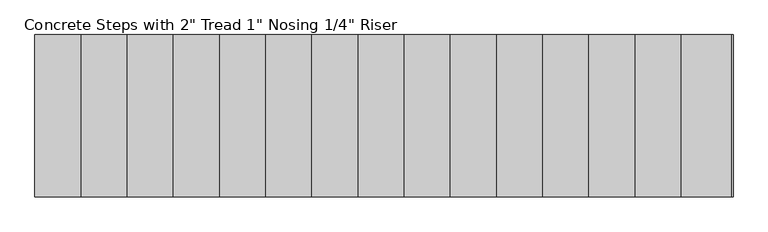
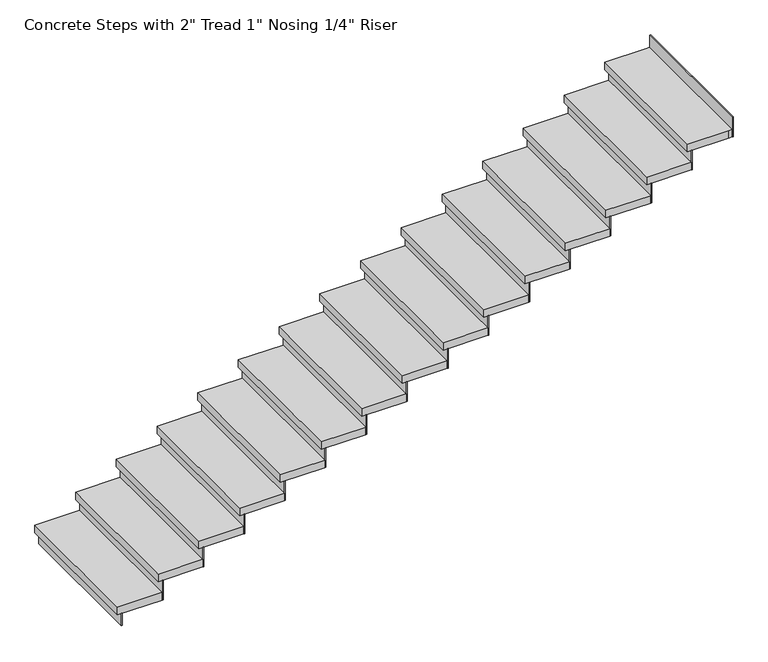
"""IFC4 building model written with IfcOpenShell, lengths in millimetres: stair flight geometry."""

from ifc_helpers import new_model, si_unit, frame, origin, origin_with_axes, place, context, project, spatial, polyline, outline, extrude, source, transform, mapped, element, save


def stair_flight_273abd03(model_context):
    return source(origin(), model_context, "Body", "SweptSolid", [
        extrude(outline(polyline([(2053.4873344, 3693.559649), (2047.1373344, 3693.559649), (2047.1373344, 4607.959649), (2053.4873344, 4607.959649), (2053.4873344, 3693.559649)])), origin_with_axes(), (0.0, 0.0, 1.0), 81.7217391),
        extrude(outline(polyline([(2307.4873344, 4607.959649), (2307.4873344, 3693.559649), (2021.7373344, 3693.559649), (2021.7373344, 4607.959649), (2307.4873344, 4607.959649)])), frame((0.0, 0.0, 81.7217391), z_axis=(0.0, 0.0, 1.0), x_axis=(1.0, 0.0, 0.0)), (0.0, 0.0, 1.0), 50.8),
        extrude(outline(polyline([(2313.8373344, 3693.559649), (2307.4873344, 3693.559649), (2307.4873344, 4607.959649), (2313.8373344, 4607.959649), (2313.8373344, 3693.559649)])), frame((0.0, 0.0, 81.7217391), z_axis=(0.0, 0.0, 1.0), x_axis=(1.0, 0.0, 0.0)), (0.0, 0.0, 1.0), 132.5217391),
        extrude(outline(polyline([(2567.8373344, 4607.959649), (2567.8373344, 3693.559649), (2282.0873344, 3693.559649), (2282.0873344, 4607.959649), (2567.8373344, 4607.959649)])), frame((0.0, 0.0, 214.2434783), z_axis=(0.0, 0.0, 1.0), x_axis=(1.0, 0.0, 0.0)), (0.0, 0.0, 1.0), 50.8),
        extrude(outline(polyline([(2574.1873344, 3693.559649), (2567.8373344, 3693.559649), (2567.8373344, 4607.959649), (2574.1873344, 4607.959649), (2574.1873344, 3693.559649)])), frame((0.0, 0.0, 214.2434783), z_axis=(0.0, 0.0, 1.0), x_axis=(1.0, 0.0, 0.0)), (0.0, 0.0, 1.0), 132.5217391),
        extrude(outline(polyline([(2828.1873344, 4607.959649), (2828.1873344, 3693.559649), (2542.4373344, 3693.559649), (2542.4373344, 4607.959649), (2828.1873344, 4607.959649)])), frame((0.0, 0.0, 346.7652174), z_axis=(0.0, 0.0, 1.0), x_axis=(1.0, 0.0, 0.0)), (0.0, 0.0, 1.0), 50.8),
        extrude(outline(polyline([(2834.5373344, 3693.559649), (2828.1873344, 3693.559649), (2828.1873344, 4607.959649), (2834.5373344, 4607.959649), (2834.5373344, 3693.559649)])), frame((0.0, 0.0, 346.7652174), z_axis=(0.0, 0.0, 1.0), x_axis=(1.0, 0.0, 0.0)), (0.0, 0.0, 1.0), 132.5217391),
        extrude(outline(polyline([(3088.5373344, 4607.959649), (3088.5373344, 3693.559649), (2802.7873344, 3693.559649), (2802.7873344, 4607.959649), (3088.5373344, 4607.959649)])), frame((0.0, 0.0, 479.2869565), z_axis=(0.0, 0.0, 1.0), x_axis=(1.0, 0.0, 0.0)), (0.0, 0.0, 1.0), 50.8),
        extrude(outline(polyline([(3094.8873344, 3693.559649), (3088.5373344, 3693.559649), (3088.5373344, 4607.959649), (3094.8873344, 4607.959649), (3094.8873344, 3693.559649)])), frame((0.0, 0.0, 479.2869565), z_axis=(0.0, 0.0, 1.0), x_axis=(1.0, 0.0, 0.0)), (0.0, 0.0, 1.0), 132.5217391),
        extrude(outline(polyline([(3348.8873344, 4607.959649), (3348.8873344, 3693.559649), (3063.1373344, 3693.559649), (3063.1373344, 4607.959649), (3348.8873344, 4607.959649)])), frame((0.0, 0.0, 611.8086957), z_axis=(0.0, 0.0, 1.0), x_axis=(1.0, 0.0, 0.0)), (0.0, 0.0, 1.0), 50.8),
        extrude(outline(polyline([(3355.2373344, 3693.559649), (3348.8873344, 3693.559649), (3348.8873344, 4607.959649), (3355.2373344, 4607.959649), (3355.2373344, 3693.559649)])), frame((0.0, 0.0, 611.8086957), z_axis=(0.0, 0.0, 1.0), x_axis=(1.0, 0.0, 0.0)), (0.0, 0.0, 1.0), 132.5217391),
        extrude(outline(polyline([(3609.2373344, 4607.959649), (3609.2373344, 3693.559649), (3323.4873344, 3693.559649), (3323.4873344, 4607.959649), (3609.2373344, 4607.959649)])), frame((0.0, 0.0, 744.3304348), z_axis=(0.0, 0.0, 1.0), x_axis=(1.0, 0.0, 0.0)), (0.0, 0.0, 1.0), 50.8),
        extrude(outline(polyline([(3615.5873344, 3693.559649), (3609.2373344, 3693.559649), (3609.2373344, 4607.959649), (3615.5873344, 4607.959649), (3615.5873344, 3693.559649)])), frame((0.0, 0.0, 744.3304348), z_axis=(0.0, 0.0, 1.0), x_axis=(1.0, 0.0, 0.0)), (0.0, 0.0, 1.0), 132.5217391),
        extrude(outline(polyline([(3869.5873344, 4607.959649), (3869.5873344, 3693.559649), (3583.8373344, 3693.559649), (3583.8373344, 4607.959649), (3869.5873344, 4607.959649)])), frame((0.0, 0.0, 876.8521739), z_axis=(0.0, 0.0, 1.0), x_axis=(1.0, 0.0, 0.0)), (0.0, 0.0, 1.0), 50.8),
        extrude(outline(polyline([(3875.9373344, 3693.559649), (3869.5873344, 3693.559649), (3869.5873344, 4607.959649), (3875.9373344, 4607.959649), (3875.9373344, 3693.559649)])), frame((0.0, 0.0, 876.8521739), z_axis=(0.0, 0.0, 1.0), x_axis=(1.0, 0.0, 0.0)), (0.0, 0.0, 1.0), 132.5217391),
        extrude(outline(polyline([(4129.9373344, 4607.959649), (4129.9373344, 3693.559649), (3844.1873344, 3693.559649), (3844.1873344, 4607.959649), (4129.9373344, 4607.959649)])), frame((0.0, 0.0, 1009.373913), z_axis=(0.0, 0.0, 1.0), x_axis=(1.0, 0.0, 0.0)), (0.0, 0.0, 1.0), 50.8),
        extrude(outline(polyline([(4136.2873344, 3693.559649), (4129.9373344, 3693.559649), (4129.9373344, 4607.959649), (4136.2873344, 4607.959649), (4136.2873344, 3693.559649)])), frame((0.0, 0.0, 1009.373913), z_axis=(0.0, 0.0, 1.0), x_axis=(1.0, 0.0, 0.0)), (0.0, 0.0, 1.0), 132.5217391),
        extrude(outline(polyline([(4390.2873344, 4607.959649), (4390.2873344, 3693.559649), (4104.5373344, 3693.559649), (4104.5373344, 4607.959649), (4390.2873344, 4607.959649)])), frame((0.0, 0.0, 1141.8956522), z_axis=(0.0, 0.0, 1.0), x_axis=(1.0, 0.0, 0.0)), (0.0, 0.0, 1.0), 50.8),
        extrude(outline(polyline([(4396.6373344, 3693.559649), (4390.2873344, 3693.559649), (4390.2873344, 4607.959649), (4396.6373344, 4607.959649), (4396.6373344, 3693.559649)])), frame((0.0, 0.0, 1141.8956522), z_axis=(0.0, 0.0, 1.0), x_axis=(1.0, 0.0, 0.0)), (0.0, 0.0, 1.0), 132.5217391),
        extrude(outline(polyline([(4650.6373344, 4607.959649), (4650.6373344, 3693.559649), (4364.8873344, 3693.559649), (4364.8873344, 4607.959649), (4650.6373344, 4607.959649)])), frame((0.0, 0.0, 1274.4173913), z_axis=(0.0, 0.0, 1.0), x_axis=(1.0, 0.0, 0.0)), (0.0, 0.0, 1.0), 50.8),
        extrude(outline(polyline([(4656.9873344, 3693.559649), (4650.6373344, 3693.559649), (4650.6373344, 4607.959649), (4656.9873344, 4607.959649), (4656.9873344, 3693.559649)])), frame((0.0, 0.0, 1274.4173913), z_axis=(0.0, 0.0, 1.0), x_axis=(1.0, 0.0, 0.0)), (0.0, 0.0, 1.0), 132.5217391),
        extrude(outline(polyline([(4910.9873344, 4607.959649), (4910.9873344, 3693.559649), (4625.2373344, 3693.559649), (4625.2373344, 4607.959649), (4910.9873344, 4607.959649)])), frame((0.0, 0.0, 1406.9391304), z_axis=(0.0, 0.0, 1.0), x_axis=(1.0, 0.0, 0.0)), (0.0, 0.0, 1.0), 50.8),
        extrude(outline(polyline([(4917.3373344, 3693.559649), (4910.9873344, 3693.559649), (4910.9873344, 4607.959649), (4917.3373344, 4607.959649), (4917.3373344, 3693.559649)])), frame((0.0, 0.0, 1406.9391304), z_axis=(0.0, 0.0, 1.0), x_axis=(1.0, 0.0, 0.0)), (0.0, 0.0, 1.0), 132.5217391),
        extrude(outline(polyline([(5171.3373344, 4607.959649), (5171.3373344, 3693.559649), (4885.5873344, 3693.559649), (4885.5873344, 4607.959649), (5171.3373344, 4607.959649)])), frame((0.0, 0.0, 1539.4608696), z_axis=(0.0, 0.0, 1.0), x_axis=(1.0, 0.0, 0.0)), (0.0, 0.0, 1.0), 50.8),
        extrude(outline(polyline([(5177.6873344, 3693.559649), (5171.3373344, 3693.559649), (5171.3373344, 4607.959649), (5177.6873344, 4607.959649), (5177.6873344, 3693.559649)])), frame((0.0, 0.0, 1539.4608696), z_axis=(0.0, 0.0, 1.0), x_axis=(1.0, 0.0, 0.0)), (0.0, 0.0, 1.0), 132.5217391),
        extrude(outline(polyline([(5431.6873344, 4607.959649), (5431.6873344, 3693.559649), (5145.9373344, 3693.559649), (5145.9373344, 4607.959649), (5431.6873344, 4607.959649)])), frame((0.0, 0.0, 1671.9826087), z_axis=(0.0, 0.0, 1.0), x_axis=(1.0, 0.0, 0.0)), (0.0, 0.0, 1.0), 50.8),
        extrude(outline(polyline([(5438.0373344, 3693.559649), (5431.6873344, 3693.559649), (5431.6873344, 4607.959649), (5438.0373344, 4607.959649), (5438.0373344, 3693.559649)])), frame((0.0, 0.0, 1671.9826087), z_axis=(0.0, 0.0, 1.0), x_axis=(1.0, 0.0, 0.0)), (0.0, 0.0, 1.0), 132.5217391),
        extrude(outline(polyline([(5692.0373344, 4607.959649), (5692.0373344, 3693.559649), (5406.2873344, 3693.559649), (5406.2873344, 4607.959649), (5692.0373344, 4607.959649)])), frame((0.0, 0.0, 1804.5043478), z_axis=(0.0, 0.0, 1.0), x_axis=(1.0, 0.0, 0.0)), (0.0, 0.0, 1.0), 50.8),
        extrude(outline(polyline([(5958.7373344, 3693.559649), (5952.3873344, 3693.559649), (5952.3873344, 4607.959649), (5958.7373344, 4607.959649), (5958.7373344, 3693.559649)])), frame((0.0, 0.0, 1937.026087), z_axis=(0.0, 0.0, 1.0), x_axis=(1.0, 0.0, 0.0)), (0.0, 0.0, 1.0), 132.5217391),
        extrude(outline(polyline([(5698.3873344, 3693.559649), (5692.0373344, 3693.559649), (5692.0373344, 4607.959649), (5698.3873344, 4607.959649), (5698.3873344, 3693.559649)])), frame((0.0, 0.0, 1804.5043478), z_axis=(0.0, 0.0, 1.0), x_axis=(1.0, 0.0, 0.0)), (0.0, 0.0, 1.0), 132.5217391),
        extrude(outline(polyline([(5952.3873344, 4607.959649), (5952.3873344, 3693.559649), (5926.9873344, 3693.559649), (5666.6373344, 3693.559649), (5666.6373344, 4607.959649), (5926.9873344, 4607.959649), (5952.3873344, 4607.959649)])), frame((0.0, 0.0, 1937.026087), z_axis=(0.0, 0.0, 1.0), x_axis=(1.0, 0.0, 0.0)), (0.0, 0.0, 1.0), 50.8),
    ])


if __name__ == "__main__":
    model = new_model("IFC4")
    model_context = context("Model", 3, world=origin())
    ifc_project = project(units=[si_unit("LENGTHUNIT", "METRE", prefix="MILLI")], contexts=[model_context])
    site = spatial("IfcSite", under=ifc_project)
    building = spatial("IfcBuilding", under=site)
    placement = place(None, origin())
    stair_flight_shape = stair_flight_273abd03(model_context)
    element("IfcStairFlight", 1, ObjectType="Concrete Steps with 2\" Tread 1\" Nosing 1/4\" Riser", at=placement, inside=building, context=model_context, shape_type="MappedRepresentation", body=[
        mapped(stair_flight_shape, transform((0.0, 0.0, 0.0), x_axis=(1.0, 0.0, 0.0), y_axis=(0.0, 1.0, 0.0), z_axis=(0.0, 0.0, 1.0))),
    ])
    save(model, "model.ifc")
